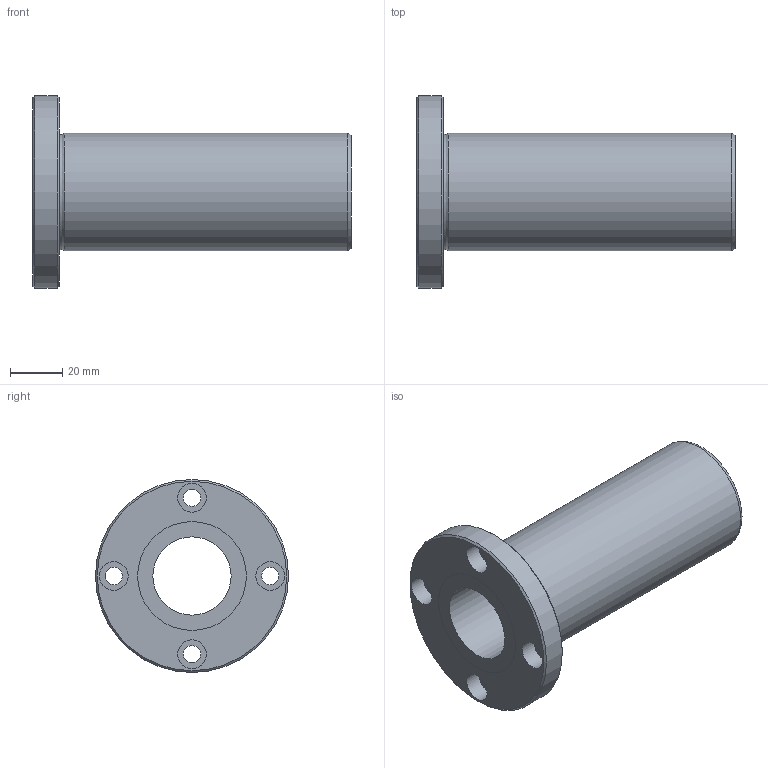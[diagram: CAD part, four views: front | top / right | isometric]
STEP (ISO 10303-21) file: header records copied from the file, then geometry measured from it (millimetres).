
FILE_DESCRIPTION((''),'2;1');
FILE_NAME('D:\製品 (図面)\カタログ用3D\リニアベアリング関連\STEP形式\LFD\LFD30.stp','2010-06-03T09:21:41',('Tsuchiya'),(''),'Autodesk Inventor 10','Autodesk Inventor 10','');
FILE_SCHEMA(('AUTOMOTIVE_DESIGN { 1 0 10303 214 1 1 1 1 }'));
Length unit declared in the file: millimetre
Products named in the file (1): LFD30
Bounding box: 122 x 74 x 74 mm (x, y, z)
Volume: 131530.4 mm3; surface area: 37560.8 mm2
Topology: 1 solids, 1 shells, 26 faces, 47 edges, 30 vertices
Faces by surface type: cylinder 13, plane 9, cone 2, torus 1, bspline 1
Full cylindrical faces by diameter (mm): 6.6 x4, 11 x4, 30 x1, 41.7 x2, 45 x1, 74 x1
Entity records: 665 total; most frequent: CARTESIAN_POINT 149, DIRECTION 112, ORIENTED_EDGE 60, EDGE_LOOP 60, AXIS2_PLACEMENT_3D 56, FACE_BOUND 34, VERTEX_POINT 30, CIRCLE 30
